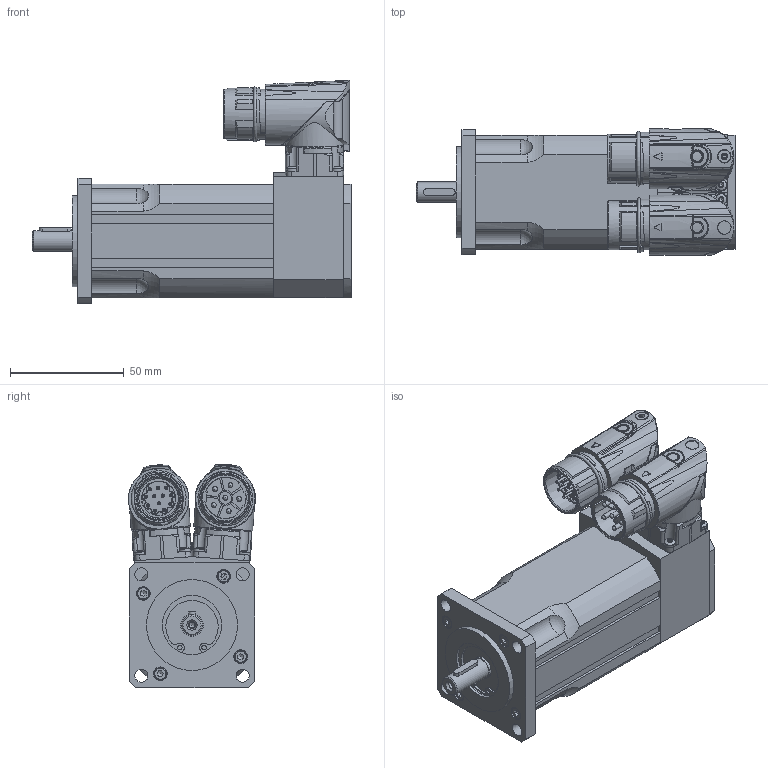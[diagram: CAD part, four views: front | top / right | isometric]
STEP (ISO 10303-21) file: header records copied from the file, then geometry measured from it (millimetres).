
FILE_DESCRIPTION(/* description */ (''),/* implementation_level */ '2;1');
FILE_NAME(/* name */ 'V:\2\N2057 00 BP\3D Z\N2057 00 BP Z_0054_S4_S1.stp',/* time_stamp */ '2018-01-31T13:21:43+01:00',/* author */ ('simik'),/* organization */ (''),/* preprocessor_version */ 'ST-DEVELOPER v17',/* originating_system */ 'Autodesk Inventor 2018',/* authorisation */ '');
FILE_SCHEMA (('AUTOMOTIVE_DESIGN { 1 0 10303 214 3 1 1 }'));
Products named in the file (9): N2057 00 BP Z; N2057 00 BP Z_front; N2057 00 BP Z_0054; BED_0201 Flansch 25x25  6-polig mit Stiften; 124953; 124888; AED_0201_12-polig, Stift; 124888_1; 127323
Assembly tree (8 placements, depth 3):
  N2057 00 BP Z
    N2057 00 BP Z_front
    N2057 00 BP Z_0054
    BED_0201 Flansch 25x25  6-polig mit Stiften
      124953
      124888
    AED_0201_12-polig, Stift
      124888_1
      127323
Bounding box: 140.2 x 55.79 x 98.11 mm (x, y, z)
Volume: 182116.3 mm3; surface area: 83222.4 mm2
Topology: 6 solids, 30 shells, 1854 faces, 4905 edges, 3128 vertices
Faces by surface type: cylinder 833, plane 509, bspline 258, cone 137, torus 81, sphere 36
Full cylindrical faces by diameter (mm): 1 x12, 1.18 x12, 1.2 x12, 2 x8, 2.013 x14, 2.15 x6, 2.208 x8, 2.4 x8, 2.459 x9, 2.5 x8, 2.675 x4, 2.7 x8, 2.8 x4, 3 x9, 3.1 x4, 3.2 x9, 3.6 x4, 4.5 x2, 5 x8, 5.2 x4, 5.5 x6, 5.6 x4, 5.8 x4, 5.9 x2, 6 x4, 6.5 x7, 9 x1, 10 x3, 15.2 x1, 17.4 x1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
Entity records: 73516 total; most frequent: CARTESIAN_POINT 25781, ORIENTED_EDGE 9678, DIRECTION 9618, EDGE_CURVE 4839, AXIS2_PLACEMENT_3D 4004, VERTEX_POINT 3128, CIRCLE 2192, EDGE_LOOP 2069
